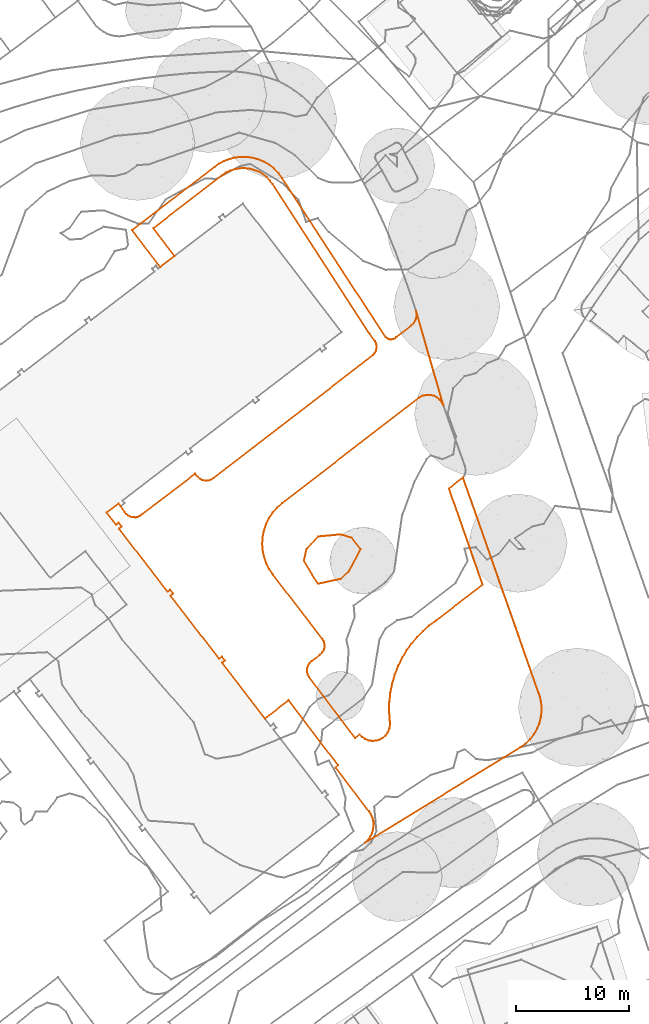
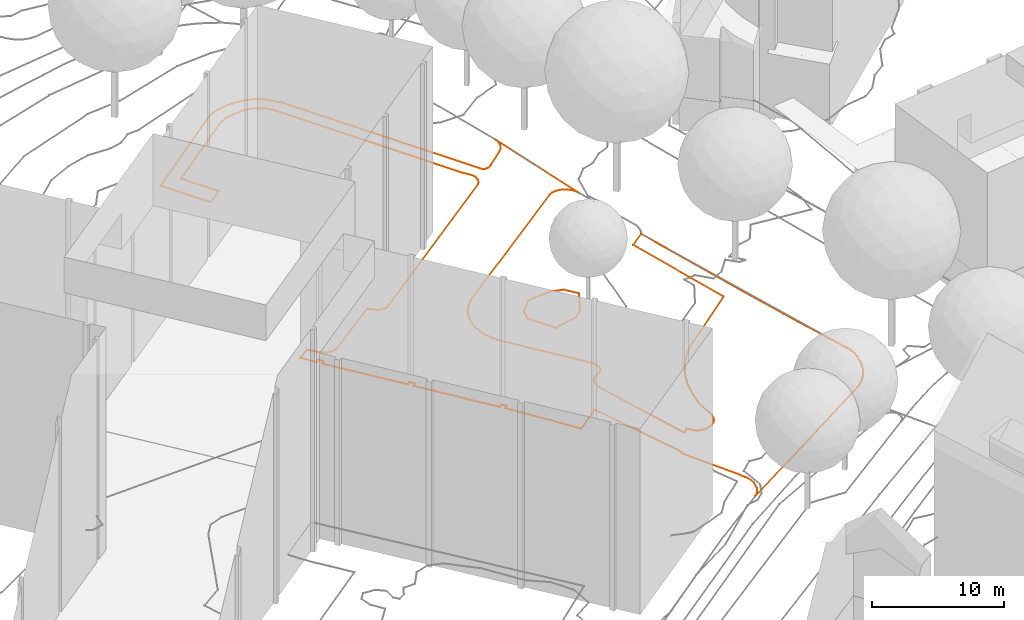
# Not in any storey, part 161 of 494: 2 proxies.
"""IFC2X3 model written with IfcOpenShell, lengths in metres."""

from ifc_helpers import new_model, entity, si_unit, frame, origin_with_axes, place, context, subcontext, project, element, save


model = new_model("IFC2X3")

# Units and contexts
model_context = context("Model", 3, precision=1e-05, world=origin_with_axes())
body_context = subcontext(model_context, "Body", "Model", "MODEL_VIEW")
ifc_project = project(units=[si_unit("AREAUNIT", "SQUARE_METRE"), si_unit("LENGTHUNIT", "METRE")], contexts=[model_context])

# Proxies
proxy_1_placement = place(None, frame((412.9717320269, 195.4147160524, 505.9420983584), z_axis=(0.0, 0.0, 1.0), x_axis=(1.0, 0.0, 0.0)))
element("IfcBuildingElementProxy", 1, at=proxy_1_placement, Name="Roads Outline 107", ObjectType="NOTDEFINED", context=body_context, shape_type="GeometricCurveSet", body=[
    entity("IfcGeometricCurveSet", [entity("IfcPolyline", [entity("IfcCartesianPoint", [0.0, 0.0, 0.0]), entity("IfcCartesianPoint", [1.0499999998, 0.808, -0.1083842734]), entity("IfcCartesianPoint", [1.2390000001, 0.5620000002, -0.0906824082]), entity("IfcCartesianPoint", [1.5969999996, 0.051, -0.0357258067]), entity("IfcCartesianPoint", [1.7259999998, -0.1199999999, -0.0253807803]), entity("IfcCartesianPoint", [1.8879999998, -0.2579999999, -0.0189634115]), entity("IfcCartesianPoint", [2.0779999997, -0.358, -0.0164848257]), entity("IfcCartesianPoint", [2.284, -0.4139999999, -0.0219985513]), entity("IfcCartesianPoint", [2.5, -0.423, -0.0376742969]), entity("IfcCartesianPoint", [2.7119999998, -0.385, -0.0551881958]), entity("IfcCartesianPoint", [2.9109999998, -0.301, -0.0748118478]), entity("IfcCartesianPoint", [3.0859999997, -0.1749999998, -0.0962364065]), entity("IfcCartesianPoint", [7.8429999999, 3.4480000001, -0.2999600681]), entity("IfcCartesianPoint", [8.048, 3.172, -0.2473739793]), entity("IfcCartesianPoint", [8.2319999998, 3.003, -0.2532683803]), entity("IfcCartesianPoint", [8.452, 2.885, -0.273494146]), entity("IfcCartesianPoint", [8.6949999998, 2.8250000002, -0.2932333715]), entity("IfcCartesianPoint", [8.9729999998, 2.8320000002, -0.3135527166]), entity("IfcCartesianPoint", [9.2379999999, 2.9170000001, -0.3307066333]), entity("IfcCartesianPoint", [9.469, 3.071, -0.3412107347]), entity("IfcCartesianPoint", [23.611, 13.9710000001, -0.6960230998]), entity("IfcCartesianPoint", [23.7519999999, 14.1500000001, -0.690724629]), entity("IfcCartesianPoint", [23.8499999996, 14.3560000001, -0.68342829]), entity("IfcCartesianPoint", [23.8989999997, 14.578, -0.6745918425]), entity("IfcCartesianPoint", [23.8989999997, 14.794, -0.6659770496]), entity("IfcCartesianPoint", [23.8539999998, 15.0040000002, -0.6576494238]), entity("IfcCartesianPoint", [23.7649999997, 15.2010000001, -0.6499450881]), entity("IfcCartesianPoint", [23.2719999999, 15.861, -0.6427167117]), entity("IfcCartesianPoint", [14.7059999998, 29.094, 0.0286374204]), entity("IfcCartesianPoint", [14.4529999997, 29.432, 0.0499872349]), entity("IfcCartesianPoint", [14.156, 29.733, 0.0498386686]), entity("IfcCartesianPoint", [13.821, 29.9920000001, 0.0351706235]), entity("IfcCartesianPoint", [13.4549999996, 30.203, 0.0268194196]), entity("IfcCartesianPoint", [13.0629999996, 30.362, 0.010274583]), entity("IfcCartesianPoint", [12.6539999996, 30.4670000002, -0.0386885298]), entity("IfcCartesianPoint", [12.2209999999, 30.5160000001, -0.0953359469]), entity("IfcCartesianPoint", [11.7859999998, 30.5040000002, -0.0990665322]), entity("IfcCartesianPoint", [11.3559999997, 30.432, -0.1145557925]), entity("IfcCartesianPoint", [10.9409999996, 30.3, -0.1006699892]), entity("IfcCartesianPoint", [10.548, 30.112, -0.0765140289]), entity("IfcCartesianPoint", [10.1850000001, 29.871, -0.0737183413]), entity("IfcCartesianPoint", [4.1269999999, 25.2080000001, -0.1898174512]), entity("IfcCartesianPoint", [6.014, 22.75, -0.4719429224]), entity("IfcCartesianPoint", [4.7449999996, 21.7750000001, -0.4876530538]), entity("IfcCartesianPoint", [2.2409999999, 25.0380000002, -0.0735836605]), entity("IfcCartesianPoint", [9.5419999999, 30.6370000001, 0.1220401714]), entity("IfcCartesianPoint", [9.952, 30.922, 0.1312054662]), entity("IfcCartesianPoint", [10.3939999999, 31.1540000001, 0.127298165]), entity("IfcCartesianPoint", [10.861, 31.3320000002, 0.1178493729]), entity("IfcCartesianPoint", [11.3449999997, 31.452, 0.0972793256]), entity("IfcCartesianPoint", [11.841, 31.5120000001, 0.0895870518]), entity("IfcCartesianPoint", [12.3399999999, 31.5110000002, 0.0903781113]), entity("IfcCartesianPoint", [12.8359999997, 31.4500000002, 0.1274929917]), entity("IfcCartesianPoint", [13.375, 31.3120000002, 0.156684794]), entity("IfcCartesianPoint", [13.8909999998, 31.1030000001, 0.1674405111]), entity("IfcCartesianPoint", [14.3739999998, 30.8260000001, 0.1741256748]), entity("IfcCartesianPoint", [14.8149999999, 30.486, 0.1609578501]), entity("IfcCartesianPoint", [15.2069999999, 30.0900000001, 0.1154347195]), entity("IfcCartesianPoint", [15.5409999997, 29.645, 0.1743478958]), entity("IfcCartesianPoint", [24.7149999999, 15.5360000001, -0.5878946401]), entity("IfcCartesianPoint", [24.835, 15.4410000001, -0.5964198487]), entity("IfcCartesianPoint", [24.9729999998, 15.375, -0.6003552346]), entity("IfcCartesianPoint", [25.1229999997, 15.344, -0.5989229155]), entity("IfcCartesianPoint", [25.3169999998, 15.355, -0.5877957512]), entity("IfcCartesianPoint", [25.4989999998, 15.422, -0.5687787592]), entity("IfcCartesianPoint", [25.6529999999, 15.54, -0.5462309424]), entity("IfcCartesianPoint", [26.9849999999, 16.584, -0.3959578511]), entity("IfcCartesianPoint", [27.1769999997, 16.7690000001, -0.3736701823]), entity("IfcCartesianPoint", [27.3249999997, 16.9920000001, -0.3530407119]), entity("IfcCartesianPoint", [27.4209999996, 17.2410000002, -0.3278600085]), entity("IfcCartesianPoint", [27.4579999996, 17.54, -0.3171116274]), entity("IfcCartesianPoint", [27.4179999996, 17.8390000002, -0.3037505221]), entity("IfcCartesianPoint", [29.8249999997, 9.5160000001, -0.9543751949]), entity("IfcCartesianPoint", [29.6850000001, 9.7860000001, -0.9308862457]), entity("IfcCartesianPoint", [29.4919999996, 10.02, -0.9044364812]), entity("IfcCartesianPoint", [29.2539999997, 10.209, -0.876604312]), entity("IfcCartesianPoint", [28.9819999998, 10.345, -0.8569925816]), entity("IfcCartesianPoint", [28.6529999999, 10.4240000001, -0.8378679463]), entity("IfcCartesianPoint", [28.3139999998, 10.425, -0.8202533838]), entity("IfcCartesianPoint", [27.9839999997, 10.3470000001, -0.8058123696]), entity("IfcCartesianPoint", [27.682, 10.1940000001, -0.7893356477]), entity("IfcCartesianPoint", [15.5219999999, 0.8260000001, -0.3691711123]), entity("IfcCartesianPoint", [15.0809999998, 0.4380000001, -0.3627430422]), entity("IfcCartesianPoint", [14.6939999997, -0.0049999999, -0.3722661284]), entity("IfcCartesianPoint", [14.3689999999, -0.4939999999, -0.3811467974]), entity("IfcCartesianPoint", [14.1099999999, -1.0219999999, -0.3839185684]), entity("IfcCartesianPoint", [13.923, -1.5789999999, -0.3749173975]), entity("IfcCartesianPoint", [13.8100000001, -2.156, -0.3836045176]), entity("IfcCartesianPoint", [13.7739999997, -2.7449999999, -0.3967140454]), entity("IfcCartesianPoint", [13.8159999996, -3.334, -0.3940868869]), entity("IfcCartesianPoint", [13.9339999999, -3.912, -0.3805426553]), entity("IfcCartesianPoint", [14.1269999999, -4.4689999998, -0.3537648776]), entity("IfcCartesianPoint", [14.392, -4.997, -0.3382527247]), entity("IfcCartesianPoint", [14.7229999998, -5.4849999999, -0.3390953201]), entity("IfcCartesianPoint", [19.1159999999, -11.209, -0.3926808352]), entity("IfcCartesianPoint", [19.2429999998, -11.4469999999, -0.426105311]), entity("IfcCartesianPoint", [19.3019999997, -11.709, -0.4516110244]), entity("IfcCartesianPoint", [19.2889999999, -11.9779999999, -0.4180306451]), entity("IfcCartesianPoint", [19.2149999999, -12.2119999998, -0.3635028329]), entity("IfcCartesianPoint", [19.088, -12.4209999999, -0.3081124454]), entity("IfcCartesianPoint", [18.9129999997, -12.5929999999, -0.2487794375]), entity("IfcCartesianPoint", [18.1489999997, -13.1639999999, -0.0783397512]), entity("IfcCartesianPoint", [17.963, -13.345, -0.0733236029]), entity("IfcCartesianPoint", [17.8289999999, -13.568, -0.0653757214]), entity("IfcCartesianPoint", [17.7560000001, -13.817, -0.0756120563]), entity("IfcCartesianPoint", [17.7479999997, -14.081, -0.1375067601]), entity("IfcCartesianPoint", [17.8089999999, -14.3389999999, -0.2071684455]), entity("IfcCartesianPoint", [17.9339999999, -14.5719999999, -0.288150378]), entity("IfcCartesianPoint", [22.017, -19.9669999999, -2.5061871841]), entity("IfcCartesianPoint", [22.4129999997, -19.662, -2.463320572]), entity("IfcCartesianPoint", [22.6369999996, -19.8929999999, -2.503403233]), entity("IfcCartesianPoint", [22.9049999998, -20.071, -2.5414357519]), entity("IfcCartesianPoint", [23.2059999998, -20.1879999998, -2.571457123]), entity("IfcCartesianPoint", [23.5239999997, -20.2379999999, -2.5901270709]), entity("IfcCartesianPoint", [23.8449999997, -20.2189999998, -2.5972627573]), entity("IfcCartesianPoint", [24.1549999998, -20.132, -2.5910390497]), entity("IfcCartesianPoint", [24.452, -19.973, -2.5978131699]), entity("IfcCartesianPoint", [24.7059999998, -19.7519999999, -2.6079914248]), entity("IfcCartesianPoint", [24.9039999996, -19.4809999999, -2.6257418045]), entity("IfcCartesianPoint", [25.037, -19.1709999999, -2.6355224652]), entity("IfcCartesianPoint", [25.0979999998, -18.8399999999, -2.6330298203]), entity("IfcCartesianPoint", [25.0839999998, -18.504, -2.6240358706]), entity("IfcCartesianPoint", [25.0239999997, -17.666, -2.6029856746]), entity("IfcCartesianPoint", [25.0379999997, -16.8259999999, -2.5944842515]), entity("IfcCartesianPoint", [25.1269999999, -15.9909999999, -2.5166689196]), entity("IfcCartesianPoint", [25.2889999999, -15.1669999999, -2.4493603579]), entity("IfcCartesianPoint", [25.5239999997, -14.3599999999, -2.4608030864]), entity("IfcCartesianPoint", [25.8289999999, -13.578, -2.5049665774]), entity("IfcCartesianPoint", [26.202, -12.825, -2.5364175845]), entity("IfcCartesianPoint", [26.585, -12.1909999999, -2.486396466]), entity("IfcCartesianPoint", [27.0159999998, -11.5889999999, -2.4598685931]), entity("IfcCartesianPoint", [27.4939999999, -11.0219999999, -2.3988523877]), entity("IfcCartesianPoint", [28.014, -10.4949999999, -2.3989308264]), entity("IfcCartesianPoint", [28.574, -10.01, -2.373468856]), entity("IfcCartesianPoint", [29.1699999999, -9.5699999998, -2.3768707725]), entity("IfcCartesianPoint", [33.307, -6.388, -2.1225901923]), entity("IfcCartesianPoint", [30.3249999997, 2.1440000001, -1.4784582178]), entity("IfcCartesianPoint", [31.5659999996, 3.115, -1.4874410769]), entity("IfcCartesianPoint", [34.6639999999, -5.7109999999, -2.1033490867]), entity("IfcCartesianPoint", [34.784, -6.0529999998, -2.1241085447]), entity("IfcCartesianPoint", [36.2739999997, -10.298, -2.3888498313]), entity("IfcCartesianPoint", [38.298, -16.064, -2.627502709]), entity("IfcCartesianPoint", [38.3469999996, -16.2109999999, -2.6251600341]), entity("IfcCartesianPoint", [38.392, -16.3599999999, -2.6238665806]), entity("IfcCartesianPoint", [38.4789999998, -16.753, -2.6244937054]), entity("IfcCartesianPoint", [38.5249999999, -17.1529999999, -2.6594143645]), entity("IfcCartesianPoint", [38.5319999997, -17.5549999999, -2.6916204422]), entity("IfcCartesianPoint", [38.4749999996, -18.1059999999, -2.7621425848]), entity("IfcCartesianPoint", [38.3429999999, -18.6439999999, -2.8436739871]), entity("IfcCartesianPoint", [38.1369999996, -19.1579999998, -2.8750491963]), entity("IfcCartesianPoint", [37.8619999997, -19.639, -2.8801009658]), entity("IfcCartesianPoint", [37.5239999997, -20.0769999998, -2.8866628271]), entity("IfcCartesianPoint", [37.128, -20.4639999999, -2.9068102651]), entity("IfcCartesianPoint", [36.682, -20.7929999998, -2.9441865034]), entity("IfcCartesianPoint", [22.878, -29.2559999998, -3.0390616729]), entity("IfcCartesianPoint", [23.1349999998, -29.0119999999, -3.0707529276]), entity("IfcCartesianPoint", [23.3459999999, -28.7279999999, -3.0728878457]), entity("IfcCartesianPoint", [23.5039999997, -28.4109999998, -3.0428805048]), entity("IfcCartesianPoint", [23.6039999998, -28.071, -3.0191773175]), entity("IfcCartesianPoint", [23.6439999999, -27.7189999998, -2.9953842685]), entity("IfcCartesianPoint", [23.625, -27.388, -2.991238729]), entity("IfcCartesianPoint", [23.5529999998, -27.064, -2.9828053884]), entity("IfcCartesianPoint", [23.429, -26.7559999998, -2.977330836]), entity("IfcCartesianPoint", [23.2560000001, -26.4719999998, -2.9624960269]), entity("IfcCartesianPoint", [23.0389999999, -26.2209999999, -2.8670506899]), entity("IfcCartesianPoint", [20.2679999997, -22.5789999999, -2.2071156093]), entity("IfcCartesianPoint", [20.5060000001, -22.392, -2.3501634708]), entity("IfcCartesianPoint", [16.1140000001, -16.635, -0.3337280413]), entity("IfcCartesianPoint", [14.0239999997, -18.2419999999, -0.3743476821]), entity("IfcCartesianPoint", [10.2219999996, -13.2959999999, -0.1546309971]), entity("IfcCartesianPoint", [10.4669999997, -13.1069999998, -0.1295029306]), entity("IfcCartesianPoint", [10.2049999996, -12.7659999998, -0.1214840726]), entity("IfcCartesianPoint", [9.96, -12.9549999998, -0.1594768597]), entity("IfcCartesianPoint", [5.6499999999, -7.3489999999, -0.1107612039]), entity("IfcCartesianPoint", [5.8959999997, -7.1599999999, -0.0923158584]), entity("IfcCartesianPoint", [5.628, -6.811, -0.0741722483]), entity("IfcCartesianPoint", [5.3819999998, -7.0, -0.0885095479]), entity("IfcCartesianPoint", [1.085, -1.4109999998, -0.0531901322]), entity("IfcCartesianPoint", [1.3309999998, -1.2219999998, -0.0222164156]), entity("IfcCartesianPoint", [1.0629999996, -0.8729999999, 0.005732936]), entity("IfcCartesianPoint", [0.8169999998, -1.0619999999, -0.0277668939]), entity("IfcCartesianPoint", [0.0, 0.0, 0.0])])]),
])
proxy_2_placement = place(None, frame((430.4414855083, 191.1707160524, 506.0), z_axis=(0.0, 0.0, 1.0), x_axis=(1.0, 0.0, 0.0)))
element("IfcBuildingElementProxy", 2, at=proxy_2_placement, Name="Contour Line 506.0 m", ObjectType="NOTDEFINED", context=body_context, shape_type="GeometricCurveSet", body=[
    entity("IfcGeometricCurveSet", [entity("IfcPolyline", [entity("IfcCartesianPoint", [1.5627771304, -2.0, 0.0]), entity("IfcCartesianPoint", [1.2362465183, -2.0693641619, 0.0]), entity("IfcCartesianPoint", [0.0, 0.0, 0.0]), entity("IfcCartesianPoint", [0.2252164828, 1.0, 0.0]), entity("IfcCartesianPoint", [1.2362465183, 2.1205147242, 0.0]), entity("IfcCartesianPoint", [3.2362465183, 2.307082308, 0.0]), entity("IfcCartesianPoint", [4.2362465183, 2.0103248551, 0.0]), entity("IfcCartesianPoint", [5.0183598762, 1.0, 0.0]), entity("IfcCartesianPoint", [3.9584601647, -1.0, 0.0]), entity("IfcCartesianPoint", [3.2362465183, -1.6313339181, 0.0]), entity("IfcCartesianPoint", [1.5627771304, -2.0, 0.0])])]),
])

save(model, "model.ifc")
